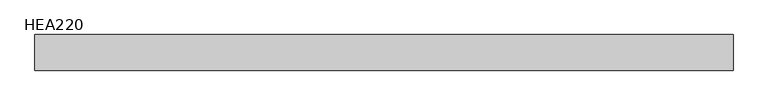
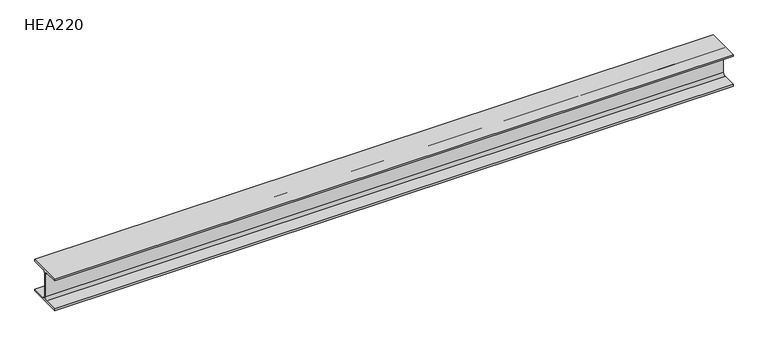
"""IFC4 building model written with IfcOpenShell, lengths in millimetres: beam geometry, HE-A : HEA220."""

from ifc_helpers import new_model, si_unit, point, frame, frame_2d, origin, place, context, project, spatial, polyline, circle_curve, trimmed, segment, composite_curve, outline, extrude, source, transform, mapped, element, save


def hea220_c0cb1d5e(model_context):
    return source(origin(), model_context, "Body", "SweptSolid", [
        extrude(outline(composite_curve([segment(polyline([(110.0, -94.0), (110.0, -105.0), (-110.0, -105.0), (-110.0, -94.0), (-21.5, -94.0)]), True, "CONTINUOUS"), segment(trimmed(circle_curve(frame_2d((-21.5, -76.0)), 18.0), [point((-21.5, -94.0))], [point((-3.5, -76.0))], True, "CARTESIAN"), True, "CONTINUOUS"), segment(polyline([(-3.5, -76.0), (-3.5, 76.0)]), True, "CONTINUOUS"), segment(trimmed(circle_curve(frame_2d((-21.5, 76.0)), 18.0), [point((-3.5, 76.0))], [point((-21.5, 94.0))], True, "CARTESIAN"), True, "CONTINUOUS"), segment(polyline([(-21.5, 94.0), (-110.0, 94.0), (-110.0, 105.0), (110.0, 105.0), (110.0, 94.0), (21.5, 94.0)]), True, "CONTINUOUS"), segment(trimmed(circle_curve(frame_2d((21.5, 76.0)), 18.0), [point((21.5, 94.0))], [point((3.5, 76.0))], True, "CARTESIAN"), True, "CONTINUOUS"), segment(polyline([(3.5, 76.0), (3.5, -76.0)]), True, "CONTINUOUS"), segment(trimmed(circle_curve(frame_2d((21.5, -76.0)), 18.0), [point((3.5, -76.0))], [point((21.5, -94.0))], True, "CARTESIAN"), True, "CONTINUOUS"), segment(polyline([(21.5, -94.0), (110.0, -94.0)]), True, "CONTINUOUS")], self_intersect=False)), frame((-2155.0, 0.0, 0.0), z_axis=(1.0, 0.0, 0.0), x_axis=(0.0, 1.0, 0.0)), (0.0, 0.0, 1.0), 4310.0),
    ])


if __name__ == "__main__":
    model = new_model("IFC4")
    model_context = context("Model", 3, world=origin())
    ifc_project = project(units=[si_unit("LENGTHUNIT", "METRE", prefix="MILLI")], contexts=[model_context])
    site = spatial("IfcSite", under=ifc_project)
    building = spatial("IfcBuilding", under=site)
    placement = place(None, origin())
    hea220_shape = hea220_c0cb1d5e(model_context)
    element("IfcBeam", 1, ObjectType="HE-A : HEA220", at=placement, inside=building, context=model_context, shape_type="MappedRepresentation", body=[
        mapped(hea220_shape, transform((0.0, 0.0, 0.0), x_axis=(1.0, 0.0, 0.0), y_axis=(0.0, 1.0, 0.0), z_axis=(0.0, 0.0, 1.0))),
    ])
    save(model, "model.ifc")
